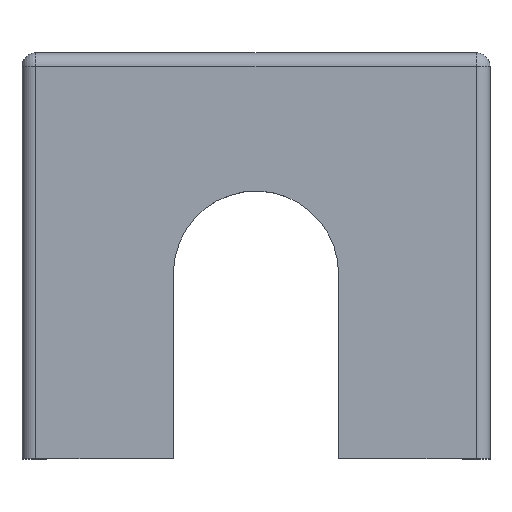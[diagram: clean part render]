
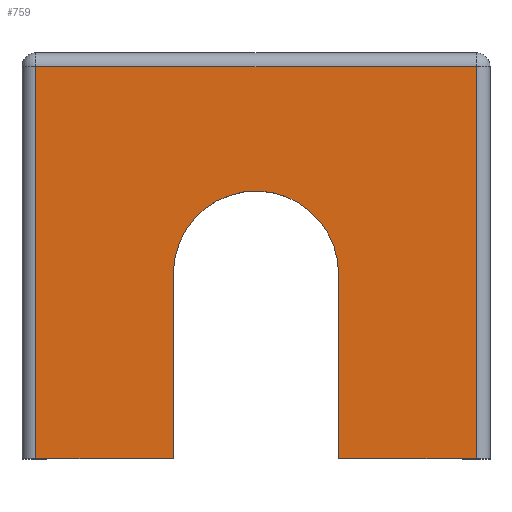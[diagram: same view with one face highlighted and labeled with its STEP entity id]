
A CAD part, top view. The second image highlights one B-rep face of the part: STEP entity #759.
In plain terms, the highlighted planar face has unit normal (0, 0, 1).
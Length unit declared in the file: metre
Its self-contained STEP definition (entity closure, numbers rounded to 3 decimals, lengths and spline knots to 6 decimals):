
#38=CIRCLE('',#824,0.006);
#105=ORIENTED_EDGE('',*,*,#315,.T.);
#106=ORIENTED_EDGE('',*,*,#316,.T.);
#107=ORIENTED_EDGE('',*,*,#295,.T.);
#108=ORIENTED_EDGE('',*,*,#317,.F.);
#109=ORIENTED_EDGE('',*,*,#318,.F.);
#110=ORIENTED_EDGE('',*,*,#319,.T.);
#111=ORIENTED_EDGE('',*,*,#307,.T.);
#112=ORIENTED_EDGE('',*,*,#320,.T.);
#295=EDGE_CURVE('',#401,#402,#474,.T.);
#307=EDGE_CURVE('',#413,#412,#483,.T.);
#315=EDGE_CURVE('',#419,#420,#490,.F.);
#316=EDGE_CURVE('',#420,#401,#491,.T.);
#317=EDGE_CURVE('',#421,#402,#492,.T.);
#318=EDGE_CURVE('',#422,#421,#38,.T.);
#319=EDGE_CURVE('',#422,#413,#493,.T.);
#320=EDGE_CURVE('',#412,#419,#494,.F.);
#401=VERTEX_POINT('',#1157);
#402=VERTEX_POINT('',#1158);
#412=VERTEX_POINT('',#1180);
#413=VERTEX_POINT('',#1182);
#419=VERTEX_POINT('',#1197);
#420=VERTEX_POINT('',#1198);
#421=VERTEX_POINT('',#1201);
#422=VERTEX_POINT('',#1203);
#474=LINE('',#1156,#558);
#483=LINE('',#1181,#567);
#490=LINE('',#1196,#574);
#491=LINE('',#1199,#575);
#492=LINE('',#1200,#576);
#493=LINE('',#1204,#577);
#494=LINE('',#1205,#578);
#558=VECTOR('',#916,1.);
#567=VECTOR('',#933,1.);
#574=VECTOR('',#944,1.);
#575=VECTOR('',#945,1.);
#576=VECTOR('',#946,1.);
#577=VECTOR('',#949,1.);
#578=VECTOR('',#950,1.);
#626=EDGE_LOOP('',(#105,#106,#107,#108,#109,#110,#111,#112));
#678=FACE_BOUND('',#626,.T.);
#732=PLANE('',#823);
#759=ADVANCED_FACE('',(#678),#732,.T.);
#823=AXIS2_PLACEMENT_3D('',#1195,#942,#943);
#824=AXIS2_PLACEMENT_3D('',#1202,#947,#948);
#916=DIRECTION('',(1.,0.,0.));
#933=DIRECTION('',(1.,0.,0.));
#942=DIRECTION('',(0.,0.,1.));
#943=DIRECTION('',(1.,0.,0.));
#944=DIRECTION('',(1.,0.,0.));
#945=DIRECTION('',(0.,-1.,0.));
#946=DIRECTION('',(0.,-1.,0.));
#947=DIRECTION('',(0.,0.,1.));
#948=DIRECTION('',(1.,0.,0.));
#949=DIRECTION('',(0.,-1.,0.));
#950=DIRECTION('',(0.,-1.,0.));
#1156=CARTESIAN_POINT('',(0.,-0.0145,0.0297));
#1157=CARTESIAN_POINT('',(-0.016,-0.0145,0.0297));
#1158=CARTESIAN_POINT('',(-0.005993,-0.0145,0.0297));
#1180=CARTESIAN_POINT('',(0.016,-0.0145,0.0297));
#1181=CARTESIAN_POINT('',(0.,-0.0145,0.0297));
#1182=CARTESIAN_POINT('',(0.006,-0.0145,0.0297));
#1195=CARTESIAN_POINT('',(0.,0.00025,0.0297));
#1196=CARTESIAN_POINT('',(0.,0.014,0.0297));
#1197=CARTESIAN_POINT('',(0.016,0.014,0.0297));
#1198=CARTESIAN_POINT('',(-0.016,0.014,0.0297));
#1199=CARTESIAN_POINT('',(-0.016,-0.0145,0.0297));
#1200=CARTESIAN_POINT('',(-0.005993,-0.007916,0.0297));
#1201=CARTESIAN_POINT('',(-0.005993,-0.000763,0.0297));
#1202=CARTESIAN_POINT('',(0.,-0.001047,0.0297));
#1203=CARTESIAN_POINT('',(0.006,-0.001047,0.0297));
#1204=CARTESIAN_POINT('',(0.006,-0.007774,0.0297));
#1205=CARTESIAN_POINT('',(0.016,0.00025,0.0297));
